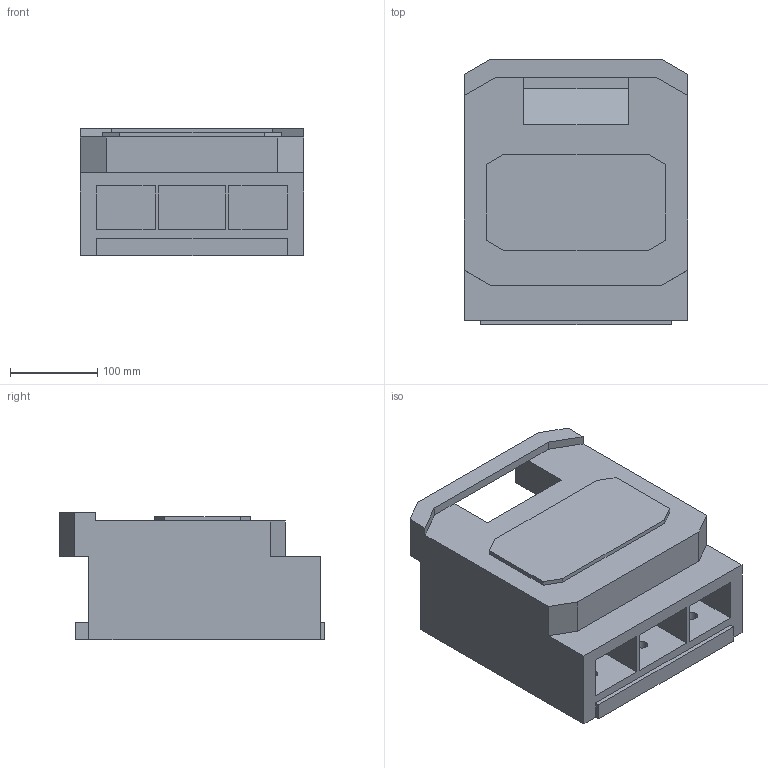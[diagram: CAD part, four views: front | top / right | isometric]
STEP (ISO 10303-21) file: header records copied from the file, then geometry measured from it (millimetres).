
FILE_DESCRIPTION (( 'STEP AP203' ), '1' );
FILE_NAME ('OptiBlock-3-M.STEP', '2023-04-17T07:31:34', ( '' ), ( '' ), 'SwSTEP 2.0', 'SolidWorks 2018', '' );
FILE_SCHEMA (( 'CONFIG_CONTROL_DESIGN' ));
Length unit declared in the file: millimetre
Products named in the file (1): OptiBlock-3-M
Bounding box: 256 x 304 x 146 mm (x, y, z)
Volume: 7972216.3 mm3; surface area: 392738 mm2
Topology: 1 solids, 1 shells, 106 faces, 257 edges, 170 vertices
Faces by surface type: plane 82, cylinder 24
Entity records: 3158 total; most frequent: CARTESIAN_POINT 534, DIRECTION 519, ORIENTED_EDGE 514, EDGE_CURVE 257, LINE 209, VECTOR 209, VERTEX_POINT 170, AXIS2_PLACEMENT_3D 155
